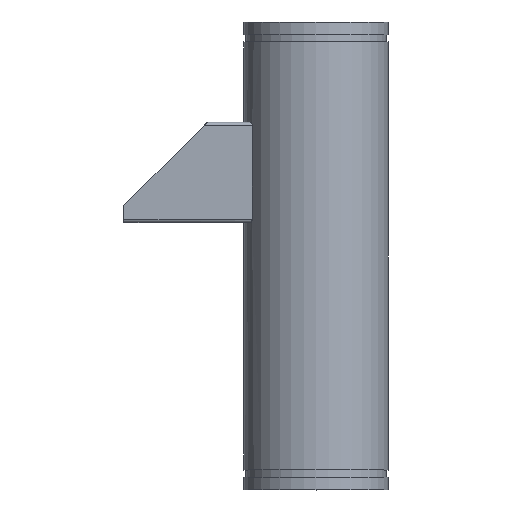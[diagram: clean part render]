
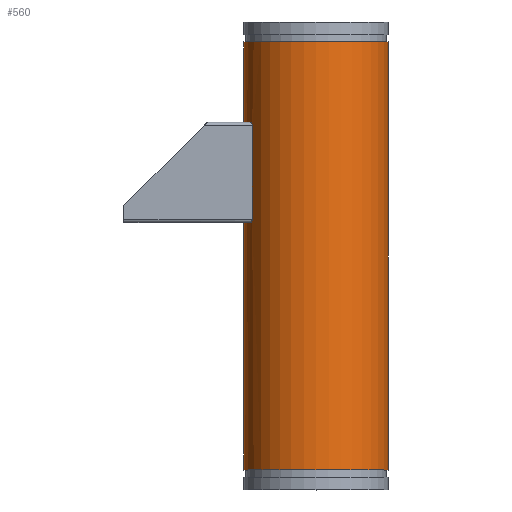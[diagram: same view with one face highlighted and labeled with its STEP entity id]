
A CAD part, top view. The second image highlights one B-rep face of the part: STEP entity #560.
In plain terms, the highlighted cylindrical face has radius 109.537 mm (diameter 219.075 mm), a full revolution.
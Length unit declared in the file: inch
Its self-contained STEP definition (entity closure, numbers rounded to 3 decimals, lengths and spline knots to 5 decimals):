
#22=CIRCLE('',#603,4.3125);
#23=CIRCLE('',#604,4.3125);
#32=CIRCLE('',#621,4.3125);
#33=CIRCLE('',#622,4.3125);
#34=CIRCLE('',#623,4.3125);
#35=CIRCLE('',#624,4.3125);
#36=CIRCLE('',#625,4.3125);
#37=CIRCLE('',#626,4.3125);
#83=FACE_OUTER_BOUND('',#111,.T.);
#111=EDGE_LOOP('',(#407,#408,#409,#410,#411,#412,#413,#414,#415,#416,#417,
#418,#419,#420,#421,#422,#423,#424));
#136=B_SPLINE_CURVE_WITH_KNOTS('',3,(#837,#838,#839,#840,#841,#842,#843,
#844,#845,#846),.UNSPECIFIED.,.F.,.F.,(4,2,2,2,4),(0.,0.19077,
0.38154,0.59528,0.80901),.UNSPECIFIED.);
#137=B_SPLINE_CURVE_WITH_KNOTS('',3,(#863,#864,#865,#866,#867,#868,#869,
#870,#871,#872),.UNSPECIFIED.,.F.,.F.,(4,2,2,2,4),(-0.80901,-0.59528,
-0.38154,-0.19077,0.),.UNSPECIFIED.);
#138=B_SPLINE_CURVE_WITH_KNOTS('',3,(#883,#884,#885,#886,#887,#888,#889,
#890,#891,#892),.UNSPECIFIED.,.F.,.F.,(4,2,2,2,4),(0.80024,1.01398,
1.22772,1.41849,1.60926),.UNSPECIFIED.);
#139=B_SPLINE_CURVE_WITH_KNOTS('',3,(#914,#915,#916,#917,#918,#919,#920,
#921,#922,#923),.UNSPECIFIED.,.F.,.F.,(4,2,2,2,4),(1.60926,1.80003,
1.9908,2.20453,2.41827),.UNSPECIFIED.);
#142=LINE('',#850,#180);
#160=LINE('',#927,#198);
#167=LINE('',#959,#205);
#168=LINE('',#962,#206);
#180=VECTOR('',#671,0.3937);
#198=VECTOR('',#711,0.3937);
#205=VECTOR('',#742,4.3125);
#206=VECTOR('',#745,4.3125);
#220=VERTEX_POINT('',#834);
#221=VERTEX_POINT('',#836);
#222=VERTEX_POINT('',#849);
#227=VERTEX_POINT('',#860);
#228=VERTEX_POINT('',#862);
#229=VERTEX_POINT('',#876);
#231=VERTEX_POINT('',#882);
#239=VERTEX_POINT('',#911);
#240=VERTEX_POINT('',#913);
#251=VERTEX_POINT('',#954);
#252=VERTEX_POINT('',#955);
#253=VERTEX_POINT('',#958);
#254=VERTEX_POINT('',#961);
#255=VERTEX_POINT('',#963);
#276=EDGE_CURVE('',#220,#221,#136,.F.);
#278=EDGE_CURVE('',#222,#221,#142,.T.);
#284=EDGE_CURVE('',#227,#228,#137,.F.);
#287=EDGE_CURVE('',#229,#228,#22,.T.);
#288=EDGE_CURVE('',#220,#229,#23,.T.);
#290=EDGE_CURVE('',#222,#231,#138,.F.);
#301=EDGE_CURVE('',#239,#240,#139,.F.);
#304=EDGE_CURVE('',#227,#240,#160,.T.);
#317=EDGE_CURVE('',#251,#252,#32,.T.);
#318=EDGE_CURVE('',#252,#251,#33,.T.);
#319=EDGE_CURVE('',#252,#253,#167,.T.);
#320=EDGE_CURVE('',#253,#231,#34,.T.);
#321=EDGE_CURVE('',#229,#254,#168,.T.);
#322=EDGE_CURVE('',#254,#255,#35,.T.);
#323=EDGE_CURVE('',#255,#254,#36,.T.);
#324=EDGE_CURVE('',#239,#253,#37,.T.);
#407=ORIENTED_EDGE('',*,*,#317,.F.);
#408=ORIENTED_EDGE('',*,*,#318,.F.);
#409=ORIENTED_EDGE('',*,*,#319,.T.);
#410=ORIENTED_EDGE('',*,*,#320,.T.);
#411=ORIENTED_EDGE('',*,*,#290,.F.);
#412=ORIENTED_EDGE('',*,*,#278,.T.);
#413=ORIENTED_EDGE('',*,*,#276,.F.);
#414=ORIENTED_EDGE('',*,*,#288,.T.);
#415=ORIENTED_EDGE('',*,*,#321,.T.);
#416=ORIENTED_EDGE('',*,*,#322,.T.);
#417=ORIENTED_EDGE('',*,*,#323,.T.);
#418=ORIENTED_EDGE('',*,*,#321,.F.);
#419=ORIENTED_EDGE('',*,*,#287,.T.);
#420=ORIENTED_EDGE('',*,*,#284,.F.);
#421=ORIENTED_EDGE('',*,*,#304,.T.);
#422=ORIENTED_EDGE('',*,*,#301,.F.);
#423=ORIENTED_EDGE('',*,*,#324,.T.);
#424=ORIENTED_EDGE('',*,*,#319,.F.);
#514=CYLINDRICAL_SURFACE('',#620,4.3125);
#560=ADVANCED_FACE('',(#83),#514,.T.);
#603=AXIS2_PLACEMENT_3D('',#877,#684,#685);
#604=AXIS2_PLACEMENT_3D('',#878,#686,#687);
#620=AXIS2_PLACEMENT_3D('',#953,#736,#737);
#621=AXIS2_PLACEMENT_3D('',#956,#738,#739);
#622=AXIS2_PLACEMENT_3D('',#957,#740,#741);
#623=AXIS2_PLACEMENT_3D('',#960,#743,#744);
#624=AXIS2_PLACEMENT_3D('',#964,#746,#747);
#625=AXIS2_PLACEMENT_3D('',#965,#748,#749);
#626=AXIS2_PLACEMENT_3D('',#966,#750,#751);
#671=DIRECTION('',(0.,1.,0.));
#684=DIRECTION('center_axis',(0.,1.,0.));
#685=DIRECTION('ref_axis',(1.,0.,0.));
#686=DIRECTION('center_axis',(0.,1.,0.));
#687=DIRECTION('ref_axis',(1.,0.,0.));
#711=DIRECTION('',(0.,-1.,0.));
#736=DIRECTION('center_axis',(0.,-1.,0.));
#737=DIRECTION('ref_axis',(1.,0.,0.));
#738=DIRECTION('center_axis',(0.,-1.,0.));
#739=DIRECTION('ref_axis',(1.,0.,0.));
#740=DIRECTION('center_axis',(0.,-1.,0.));
#741=DIRECTION('ref_axis',(1.,0.,0.));
#742=DIRECTION('',(0.,1.,0.));
#743=DIRECTION('center_axis',(0.,-1.,0.));
#744=DIRECTION('ref_axis',(1.,0.,0.));
#745=DIRECTION('',(0.,1.,0.));
#746=DIRECTION('center_axis',(0.,-1.,0.));
#747=DIRECTION('ref_axis',(1.,0.,0.));
#748=DIRECTION('center_axis',(0.,-1.,0.));
#749=DIRECTION('ref_axis',(1.,0.,0.));
#750=DIRECTION('center_axis',(0.,-1.,0.));
#751=DIRECTION('ref_axis',(1.,0.,0.));
#834=CARTESIAN_POINT('',(-3.91888,22.,-1.8));
#836=CARTESIAN_POINT('',(-3.82069,21.8,-2.));
#837=CARTESIAN_POINT('Ctrl Pts',(-3.82069,21.8,-2.));
#838=CARTESIAN_POINT('Ctrl Pts',(-3.82069,21.82504,-2.));
#839=CARTESIAN_POINT('Ctrl Pts',(-3.82332,21.85149,-1.995));
#840=CARTESIAN_POINT('Ctrl Pts',(-3.8335,21.89963,-1.97535));
#841=CARTESIAN_POINT('Ctrl Pts',(-3.84103,21.92134,-1.96073));
#842=CARTESIAN_POINT('Ctrl Pts',(-3.85855,21.95752,-1.92605));
#843=CARTESIAN_POINT('Ctrl Pts',(-3.87003,21.97362,-1.90297));
#844=CARTESIAN_POINT('Ctrl Pts',(-3.89435,21.99486,-1.85269));
#845=CARTESIAN_POINT('Ctrl Pts',(-3.90718,22.,-1.82549));
#846=CARTESIAN_POINT('Ctrl Pts',(-3.91888,22.,-1.8));
#849=CARTESIAN_POINT('',(-3.82069,16.2,-2.));
#850=CARTESIAN_POINT('',(-3.82069,14.,-2.));
#860=CARTESIAN_POINT('',(-3.82069,21.8,2.));
#862=CARTESIAN_POINT('',(-3.91888,22.,1.8));
#863=CARTESIAN_POINT('Ctrl Pts',(-3.91888,22.,1.8));
#864=CARTESIAN_POINT('Ctrl Pts',(-3.90718,22.,1.82549));
#865=CARTESIAN_POINT('Ctrl Pts',(-3.89435,21.99486,1.85269));
#866=CARTESIAN_POINT('Ctrl Pts',(-3.87003,21.97362,1.90297));
#867=CARTESIAN_POINT('Ctrl Pts',(-3.85855,21.95752,1.92605));
#868=CARTESIAN_POINT('Ctrl Pts',(-3.84103,21.92134,1.96073));
#869=CARTESIAN_POINT('Ctrl Pts',(-3.8335,21.89963,1.97535));
#870=CARTESIAN_POINT('Ctrl Pts',(-3.82332,21.85149,1.995));
#871=CARTESIAN_POINT('Ctrl Pts',(-3.82069,21.82504,2.));
#872=CARTESIAN_POINT('Ctrl Pts',(-3.82069,21.8,2.));
#876=CARTESIAN_POINT('',(-4.3125,22.,0.));
#877=CARTESIAN_POINT('Origin',(0.,22.,0.));
#878=CARTESIAN_POINT('Origin',(0.,22.,0.));
#882=CARTESIAN_POINT('',(-3.91888,16.,-1.8));
#883=CARTESIAN_POINT('Ctrl Pts',(-3.91888,16.,-1.8));
#884=CARTESIAN_POINT('Ctrl Pts',(-3.90718,16.,-1.82549));
#885=CARTESIAN_POINT('Ctrl Pts',(-3.89435,16.00514,-1.85269));
#886=CARTESIAN_POINT('Ctrl Pts',(-3.87003,16.02638,-1.90297));
#887=CARTESIAN_POINT('Ctrl Pts',(-3.85855,16.04248,-1.92605));
#888=CARTESIAN_POINT('Ctrl Pts',(-3.84103,16.07866,-1.96073));
#889=CARTESIAN_POINT('Ctrl Pts',(-3.8335,16.10037,-1.97535));
#890=CARTESIAN_POINT('Ctrl Pts',(-3.82332,16.14851,-1.995));
#891=CARTESIAN_POINT('Ctrl Pts',(-3.82069,16.17496,-2.));
#892=CARTESIAN_POINT('Ctrl Pts',(-3.82069,16.2,-2.));
#911=CARTESIAN_POINT('',(-3.91888,16.,1.8));
#913=CARTESIAN_POINT('',(-3.82069,16.2,2.));
#914=CARTESIAN_POINT('Ctrl Pts',(-3.82069,16.2,2.));
#915=CARTESIAN_POINT('Ctrl Pts',(-3.82069,16.17496,2.));
#916=CARTESIAN_POINT('Ctrl Pts',(-3.82332,16.14851,1.995));
#917=CARTESIAN_POINT('Ctrl Pts',(-3.8335,16.10037,1.97535));
#918=CARTESIAN_POINT('Ctrl Pts',(-3.84103,16.07866,1.96073));
#919=CARTESIAN_POINT('Ctrl Pts',(-3.85855,16.04248,1.92605));
#920=CARTESIAN_POINT('Ctrl Pts',(-3.87003,16.02638,1.90297));
#921=CARTESIAN_POINT('Ctrl Pts',(-3.89435,16.00514,1.85269));
#922=CARTESIAN_POINT('Ctrl Pts',(-3.90718,16.,1.82549));
#923=CARTESIAN_POINT('Ctrl Pts',(-3.91888,16.,1.8));
#927=CARTESIAN_POINT('',(-3.82069,14.,2.));
#953=CARTESIAN_POINT('Origin',(0.,14.,0.));
#954=CARTESIAN_POINT('',(4.3125,1.188,0.));
#955=CARTESIAN_POINT('',(-4.3125,1.188,0.));
#956=CARTESIAN_POINT('Origin',(0.,1.188,0.));
#957=CARTESIAN_POINT('Origin',(0.,1.188,0.));
#958=CARTESIAN_POINT('',(-4.3125,16.,0.));
#959=CARTESIAN_POINT('',(-4.3125,14.,0.));
#960=CARTESIAN_POINT('Origin',(0.,16.,0.));
#961=CARTESIAN_POINT('',(-4.3125,26.812,0.));
#962=CARTESIAN_POINT('',(-4.3125,14.,0.));
#963=CARTESIAN_POINT('',(4.3125,26.812,0.));
#964=CARTESIAN_POINT('Origin',(0.,26.812,0.));
#965=CARTESIAN_POINT('Origin',(0.,26.812,0.));
#966=CARTESIAN_POINT('Origin',(0.,16.,0.));
